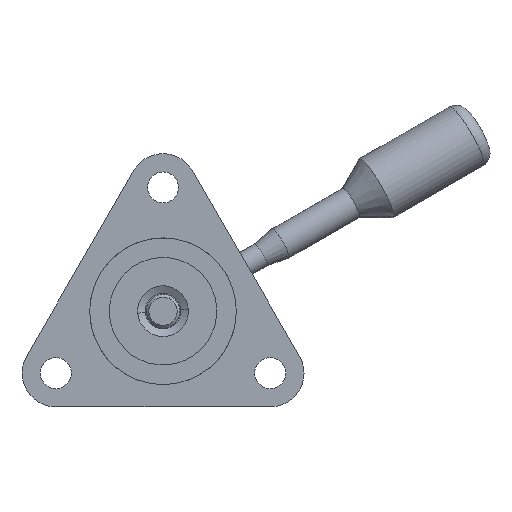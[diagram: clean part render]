
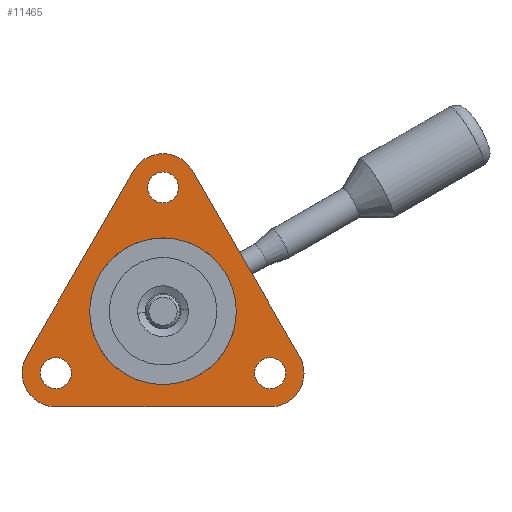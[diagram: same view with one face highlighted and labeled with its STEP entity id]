
A CAD part, front view. The second image highlights one B-rep face of the part: STEP entity #11465.
In plain terms, the highlighted planar face has unit normal (0, -1, 0).
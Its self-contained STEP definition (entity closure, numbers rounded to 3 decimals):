
#1039 = DIRECTION ( 'NONE',  ( 1., 0., 0. ) ) ;
#1710 = CARTESIAN_POINT ( 'NONE',  ( 19., 0., 10.97 ) ) ;
#1857 = ORIENTED_EDGE ( 'NONE', *, *, #49348, .F. ) ;
#3350 = AXIS2_PLACEMENT_3D ( 'NONE', #52597, #115784, #61678 ) ;
#3400 = ORIENTED_EDGE ( 'NONE', *, *, #53881, .F. ) ;
#5478 = ORIENTED_EDGE ( 'NONE', *, *, #98683, .T. ) ;
#6026 = CARTESIAN_POINT ( 'NONE',  ( -19., 0., 16.97 ) ) ;
#6330 = CARTESIAN_POINT ( 'NONE',  ( 0., 0., 0. ) ) ;
#6423 = EDGE_LOOP ( 'NONE', ( #98742, #45480 ) ) ;
#6442 = FACE_BOUND ( 'NONE', #50338, .T. ) ;
#7323 = DIRECTION ( 'NONE',  ( 0., 0., 1. ) ) ;
#8299 = CARTESIAN_POINT ( 'NONE',  ( 24.196, 0., 7.97 ) ) ;
#10799 = DIRECTION ( 'NONE',  ( 0., 0., -1. ) ) ;
#11438 = EDGE_CURVE ( 'NONE', #87293, #93573, #48808, .T. ) ;
#11457 = LINE ( 'NONE', #116704, #56681 ) ;
#11465 = ADVANCED_FACE ( 'NONE', ( #70018, #6442, #72844, #93988, #45996 ), #59208, .T. ) ;
#12605 = CARTESIAN_POINT ( 'NONE',  ( -13., 0., 0. ) ) ;
#13146 = DIRECTION ( 'NONE',  ( 0., 1., 0. ) ) ;
#13188 = EDGE_CURVE ( 'NONE', #106557, #113937, #53048, .T. ) ;
#13322 = VECTOR ( 'NONE', #1039, 1000. ) ;
#14176 = DIRECTION ( 'NONE',  ( 0., 1., 0. ) ) ;
#14729 = CARTESIAN_POINT ( 'NONE',  ( -19., 0., 8.22 ) ) ;
#15410 = DIRECTION ( 'NONE',  ( -1., 0., 0. ) ) ;
#15741 = ORIENTED_EDGE ( 'NONE', *, *, #64646, .F. ) ;
#16850 = EDGE_CURVE ( 'NONE', #84329, #55911, #103740, .T. ) ;
#17859 = ORIENTED_EDGE ( 'NONE', *, *, #68359, .T. ) ;
#20537 = CARTESIAN_POINT ( 'NONE',  ( -19., 0., 10.97 ) ) ;
#21682 = DIRECTION ( 'NONE',  ( 0., 1., 0. ) ) ;
#23259 = CARTESIAN_POINT ( 'NONE',  ( 0., 0., -21.939 ) ) ;
#25921 = ORIENTED_EDGE ( 'NONE', *, *, #51620, .F. ) ;
#26074 = EDGE_CURVE ( 'NONE', #71349, #44585, #57087, .T. ) ;
#27481 = ORIENTED_EDGE ( 'NONE', *, *, #59201, .F. ) ;
#28012 = VERTEX_POINT ( 'NONE', #52100 ) ;
#28821 = DIRECTION ( 'NONE',  ( 0., 1., 0. ) ) ;
#29609 = DIRECTION ( 'NONE',  ( 0., 0., 1. ) ) ;
#33114 = AXIS2_PLACEMENT_3D ( 'NONE', #115537, #61423, #7323 ) ;
#33724 = CARTESIAN_POINT ( 'NONE',  ( 0., 0., -21.939 ) ) ;
#33988 = AXIS2_PLACEMENT_3D ( 'NONE', #82947, #28821, #91995 ) ;
#34638 = ORIENTED_EDGE ( 'NONE', *, *, #39124, .T. ) ;
#39124 = EDGE_CURVE ( 'NONE', #72923, #28012, #46903, .T. ) ;
#40724 = AXIS2_PLACEMENT_3D ( 'NONE', #102592, #48503, #111668 ) ;
#41164 = CIRCLE ( 'NONE', #33114, 2.75 ) ;
#41428 = DIRECTION ( 'NONE',  ( 0., 0., -1. ) ) ;
#42803 = DIRECTION ( 'NONE',  ( 0., 0., 1. ) ) ;
#43236 = AXIS2_PLACEMENT_3D ( 'NONE', #6330, #69506, #15410 ) ;
#43406 = CIRCLE ( 'NONE', #90105, 2.75 ) ;
#44585 = VERTEX_POINT ( 'NONE', #12605 ) ;
#45480 = ORIENTED_EDGE ( 'NONE', *, *, #26074, .T. ) ;
#45996 = FACE_BOUND ( 'NONE', #90845, .T. ) ;
#46903 = CIRCLE ( 'NONE', #3350, 2.75 ) ;
#47573 = VECTOR ( 'NONE', #82909, 1000. ) ;
#47823 = DIRECTION ( 'NONE',  ( 0., 1., 0. ) ) ;
#48289 = AXIS2_PLACEMENT_3D ( 'NONE', #68280, #14176, #77361 ) ;
#48503 = DIRECTION ( 'NONE',  ( 0., 1., 0. ) ) ;
#48808 = CIRCLE ( 'NONE', #48289, 2.75 ) ;
#49348 = EDGE_CURVE ( 'NONE', #55911, #106684, #82203, .T. ) ;
#50338 = EDGE_LOOP ( 'NONE', ( #5478, #78665 ) ) ;
#50915 = EDGE_CURVE ( 'NONE', #113937, #106557, #41164, .T. ) ;
#51620 = EDGE_CURVE ( 'NONE', #106684, #94490, #11457, .T. ) ;
#52100 = CARTESIAN_POINT ( 'NONE',  ( 19., 0., 13.72 ) ) ;
#52597 = CARTESIAN_POINT ( 'NONE',  ( 19., 0., 10.97 ) ) ;
#53048 = CIRCLE ( 'NONE', #82381, 2.75 ) ;
#53881 = EDGE_CURVE ( 'NONE', #94490, #114811, #87755, .T. ) ;
#55911 = VERTEX_POINT ( 'NONE', #62290 ) ;
#56119 = VERTEX_POINT ( 'NONE', #107692 ) ;
#56596 = CIRCLE ( 'NONE', #81745, 6. ) ;
#56681 = VECTOR ( 'NONE', #75620, 1000. ) ;
#57087 = CIRCLE ( 'NONE', #86343, 13. ) ;
#59201 = EDGE_CURVE ( 'NONE', #56119, #84329, #83557, .T. ) ;
#59208 = PLANE ( 'NONE',  #66453 ) ;
#61423 = DIRECTION ( 'NONE',  ( 0., 1., 0. ) ) ;
#61585 = ORIENTED_EDGE ( 'NONE', *, *, #13188, .T. ) ;
#61678 = DIRECTION ( 'NONE',  ( 0., 0., 1. ) ) ;
#61738 = CARTESIAN_POINT ( 'NONE',  ( 5.196, 0., -24.939 ) ) ;
#62007 = CARTESIAN_POINT ( 'NONE',  ( 0., 0., -24.689 ) ) ;
#62290 = CARTESIAN_POINT ( 'NONE',  ( 19., 0., 16.97 ) ) ;
#63128 = CIRCLE ( 'NONE', #43236, 13. ) ;
#64210 = CARTESIAN_POINT ( 'NONE',  ( 19., 0., 16.97 ) ) ;
#64646 = EDGE_CURVE ( 'NONE', #114811, #72091, #56596, .T. ) ;
#64900 = DIRECTION ( 'NONE',  ( 0., 1., 0. ) ) ;
#66453 = AXIS2_PLACEMENT_3D ( 'NONE', #23259, #95509, #41428 ) ;
#67277 = CARTESIAN_POINT ( 'NONE',  ( 0., 0., -21.939 ) ) ;
#67825 = CIRCLE ( 'NONE', #107516, 2.75 ) ;
#68280 = CARTESIAN_POINT ( 'NONE',  ( -19., 0., 10.97 ) ) ;
#68359 = EDGE_CURVE ( 'NONE', #28012, #72923, #67825, .T. ) ;
#69506 = DIRECTION ( 'NONE',  ( 0., 1., 0. ) ) ;
#70018 = FACE_BOUND ( 'NONE', #6423, .T. ) ;
#71349 = VERTEX_POINT ( 'NONE', #87764 ) ;
#72091 = VERTEX_POINT ( 'NONE', #106701 ) ;
#72844 = FACE_OUTER_BOUND ( 'NONE', #74575, .T. ) ;
#72923 = VERTEX_POINT ( 'NONE', #73665 ) ;
#73665 = CARTESIAN_POINT ( 'NONE',  ( 19., 0., 8.22 ) ) ;
#74516 = CARTESIAN_POINT ( 'NONE',  ( 0., 0., -19.189 ) ) ;
#74575 = EDGE_LOOP ( 'NONE', ( #3400, #25921, #1857, #76921, #27481, #103932, #15741 ) ) ;
#75620 = DIRECTION ( 'NONE',  ( -0.5, 0., -0.866 ) ) ;
#75784 = CARTESIAN_POINT ( 'NONE',  ( 0., 0., 0. ) ) ;
#76329 = DIRECTION ( 'NONE',  ( 0., 0., -1. ) ) ;
#76921 = ORIENTED_EDGE ( 'NONE', *, *, #16850, .F. ) ;
#77361 = DIRECTION ( 'NONE',  ( 0., 0., 1. ) ) ;
#78665 = ORIENTED_EDGE ( 'NONE', *, *, #11438, .T. ) ;
#79595 = CARTESIAN_POINT ( 'NONE',  ( 0., 0., -27.939 ) ) ;
#81745 = AXIS2_PLACEMENT_3D ( 'NONE', #67277, #13146, #76329 ) ;
#82203 = CIRCLE ( 'NONE', #92080, 6. ) ;
#82381 = AXIS2_PLACEMENT_3D ( 'NONE', #33724, #96881, #42803 ) ;
#82883 = EDGE_LOOP ( 'NONE', ( #61585, #99773 ) ) ;
#82909 = DIRECTION ( 'NONE',  ( -0.5, 0., 0.866 ) ) ;
#82947 = CARTESIAN_POINT ( 'NONE',  ( -19., 0., 10.97 ) ) ;
#83557 = CIRCLE ( 'NONE', #33988, 6. ) ;
#83716 = DIRECTION ( 'NONE',  ( 0., 1., 0. ) ) ;
#84329 = VERTEX_POINT ( 'NONE', #6026 ) ;
#84877 = DIRECTION ( 'NONE',  ( -1., 0., 0. ) ) ;
#86343 = AXIS2_PLACEMENT_3D ( 'NONE', #75784, #21682, #84877 ) ;
#86612 = CARTESIAN_POINT ( 'NONE',  ( -19., 0., 13.72 ) ) ;
#87293 = VERTEX_POINT ( 'NONE', #86612 ) ;
#87755 = CIRCLE ( 'NONE', #40724, 6. ) ;
#87764 = CARTESIAN_POINT ( 'NONE',  ( 13., 0., 0. ) ) ;
#90105 = AXIS2_PLACEMENT_3D ( 'NONE', #20537, #83716, #29609 ) ;
#90845 = EDGE_LOOP ( 'NONE', ( #34638, #17859 ) ) ;
#91995 = DIRECTION ( 'NONE',  ( 0., 0., 1. ) ) ;
#92080 = AXIS2_PLACEMENT_3D ( 'NONE', #1710, #64900, #10799 ) ;
#93573 = VERTEX_POINT ( 'NONE', #14729 ) ;
#93988 = FACE_BOUND ( 'NONE', #82883, .T. ) ;
#94490 = VERTEX_POINT ( 'NONE', #61738 ) ;
#95509 = DIRECTION ( 'NONE',  ( 0., -1., 0. ) ) ;
#95957 = CARTESIAN_POINT ( 'NONE',  ( -24.196, 0., 7.97 ) ) ;
#96881 = DIRECTION ( 'NONE',  ( 0., 1., 0. ) ) ;
#98683 = EDGE_CURVE ( 'NONE', #93573, #87293, #43406, .T. ) ;
#98742 = ORIENTED_EDGE ( 'NONE', *, *, #101785, .T. ) ;
#99773 = ORIENTED_EDGE ( 'NONE', *, *, #50915, .T. ) ;
#101562 = EDGE_CURVE ( 'NONE', #72091, #56119, #116845, .T. ) ;
#101785 = EDGE_CURVE ( 'NONE', #44585, #71349, #63128, .T. ) ;
#101898 = CARTESIAN_POINT ( 'NONE',  ( 19., 0., 10.97 ) ) ;
#102592 = CARTESIAN_POINT ( 'NONE',  ( 0., 0., -21.939 ) ) ;
#103740 = LINE ( 'NONE', #64210, #13322 ) ;
#103932 = ORIENTED_EDGE ( 'NONE', *, *, #101562, .F. ) ;
#106557 = VERTEX_POINT ( 'NONE', #62007 ) ;
#106684 = VERTEX_POINT ( 'NONE', #8299 ) ;
#106701 = CARTESIAN_POINT ( 'NONE',  ( -5.196, 0., -24.939 ) ) ;
#107516 = AXIS2_PLACEMENT_3D ( 'NONE', #101898, #47823, #110985 ) ;
#107692 = CARTESIAN_POINT ( 'NONE',  ( -24.196, 0., 7.97 ) ) ;
#110985 = DIRECTION ( 'NONE',  ( 0., 0., 1. ) ) ;
#111668 = DIRECTION ( 'NONE',  ( 0., 0., -1. ) ) ;
#113937 = VERTEX_POINT ( 'NONE', #74516 ) ;
#114811 = VERTEX_POINT ( 'NONE', #79595 ) ;
#115537 = CARTESIAN_POINT ( 'NONE',  ( 0., 0., -21.939 ) ) ;
#115784 = DIRECTION ( 'NONE',  ( 0., 1., 0. ) ) ;
#116704 = CARTESIAN_POINT ( 'NONE',  ( 5.196, 0., -24.939 ) ) ;
#116845 = LINE ( 'NONE', #95957, #47573 ) ;
